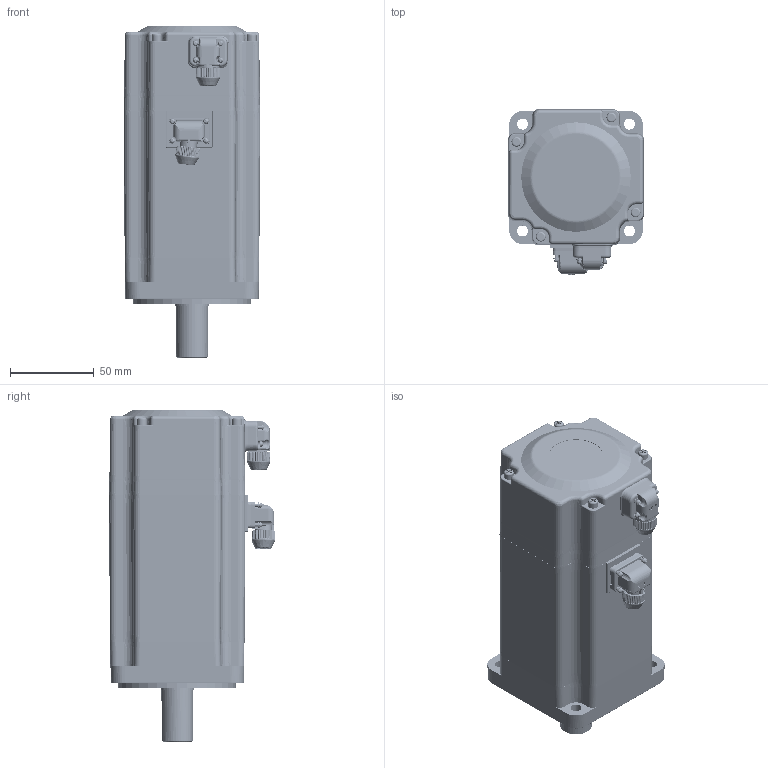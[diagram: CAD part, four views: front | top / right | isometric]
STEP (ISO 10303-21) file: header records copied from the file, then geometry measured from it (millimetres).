
FILE_DESCRIPTION((''),'2;1');
FILE_NAME('80-1000W','2017-05-26T',('Administrator'),(''),'PRO/ENGINEER BY PARAMETRIC TECHNOLOGY CORPORATION, 2010280','PRO/ENGINEER BY PARAMETRIC TECHNOLOGY CORPORATION, 2010280','');
FILE_SCHEMA(('CONFIG_CONTROL_DESIGN'));
Products named in the file (1): 80-1000W
Bounding box: 81.33 x 98.85 x 197.65 mm (x, y, z)
Volume: 617177 mm3; surface area: 145291 mm2
Topology: 45 solids, 76 shells, 8357 faces, 20913 edges, 12462 vertices
Faces by surface type: plane 4574, cylinder 1520, bspline 1162, cone 545, torus 260, sphere 194, extrusion 89, revolution 13
Entity records: 310969 total; most frequent: CARTESIAN_POINT 123604, ORIENTED_EDGE 41000, DIRECTION 34647, EDGE_CURVE 20701, VECTOR 12940, LINE 12851, VERTEX_POINT 12462, AXIS2_PLACEMENT_3D 10847
